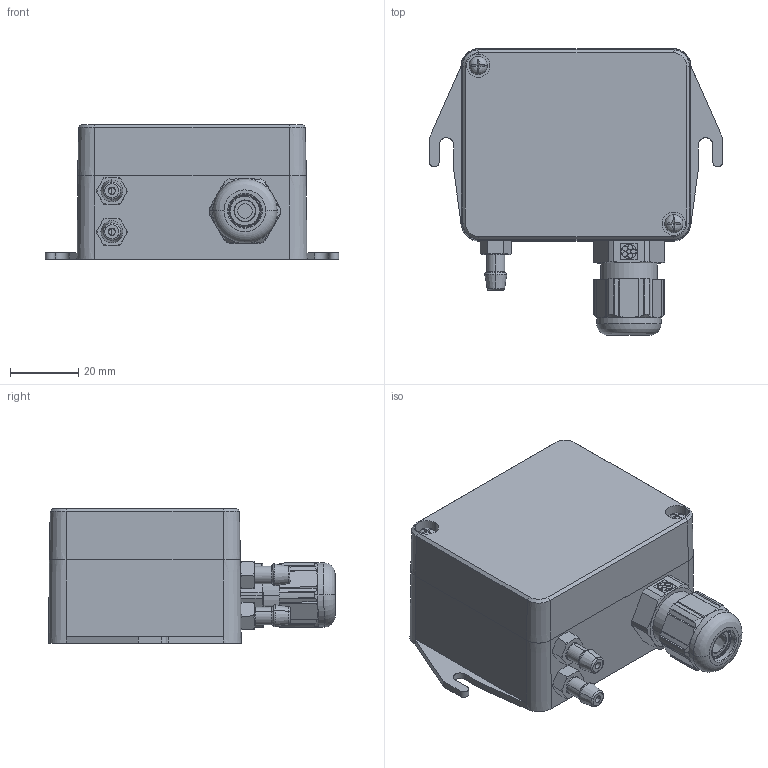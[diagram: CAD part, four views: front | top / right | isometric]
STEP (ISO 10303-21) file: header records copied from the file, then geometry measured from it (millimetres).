
FILE_DESCRIPTION (( 'STEP AP214' ), '1' );
FILE_NAME ('Base BDP version.STEP', '2025-02-04T14:20:54', ( '' ), ( '' ), 'SwSTEP 2.0', 'SolidWorks 2022', '' );
FILE_SCHEMA (( 'AUTOMOTIVE_DESIGN' ));
Length unit declared in the file: millimetre
Products named in the file (10): Druckanschluss M5-Silikon; Gehäuse-Deckel 67x56x15 DS01; PG_Skintop_ST_16x1,5.R_102718.step; PG_Skintop_ST_16x1,5.R_102716.step; Gehäuse-Unterteil Druck Base; PG_Skintop_ST_16x1,5.R_102717.step; Gehäuseschraube; Base BDP version; SKINTOPM16.step; SKINTOPM16
Assembly tree (11 placements, depth 4):
  Base BDP version
    Gehäuse-Unterteil Druck Base
    SKINTOPM16
      SKINTOPM16.step
        PG_Skintop_ST_16x1,5.R_102716.step
        PG_Skintop_ST_16x1,5.R_102717.step
        PG_Skintop_ST_16x1,5.R_102718.step
    Druckanschluss M5-Silikon  x2
    Gehäuse-Deckel 67x56x15 DS01
    Gehäuseschraube  x2
Bounding box: 86 x 84.09 x 39.5 mm (x, y, z)
Volume: 44115.6 mm3; surface area: 44951.4 mm2
Topology: 9 solids, 9 shells, 750 faces, 1954 edges, 1258 vertices
Faces by surface type: plane 357, cylinder 155, cone 146, bspline 63, torus 29
Entity records: 26899 total; most frequent: CARTESIAN_POINT 9761, ORIENTED_EDGE 3544, DIRECTION 3147, EDGE_CURVE 1772, AXIS2_PLACEMENT_3D 1151, VERTEX_POINT 1147, VECTOR 845, LINE 845
